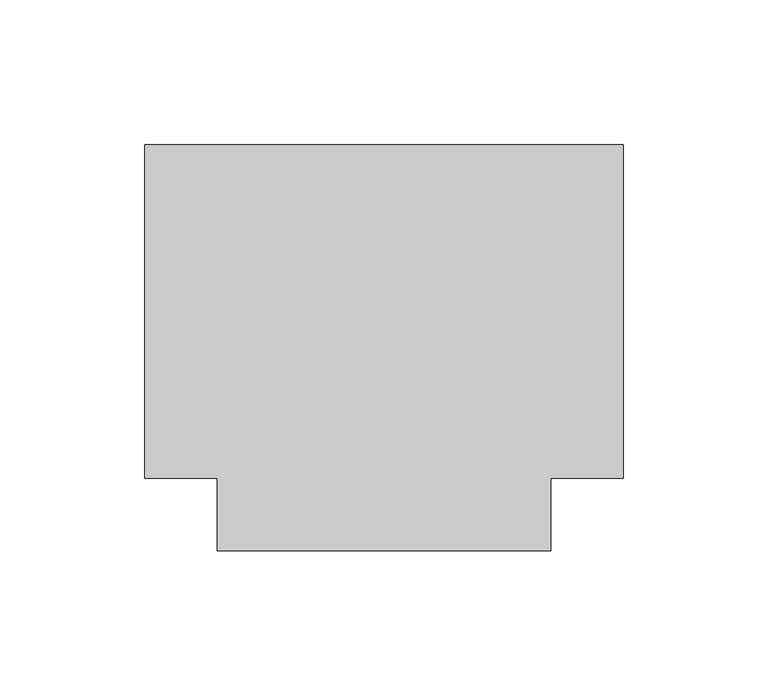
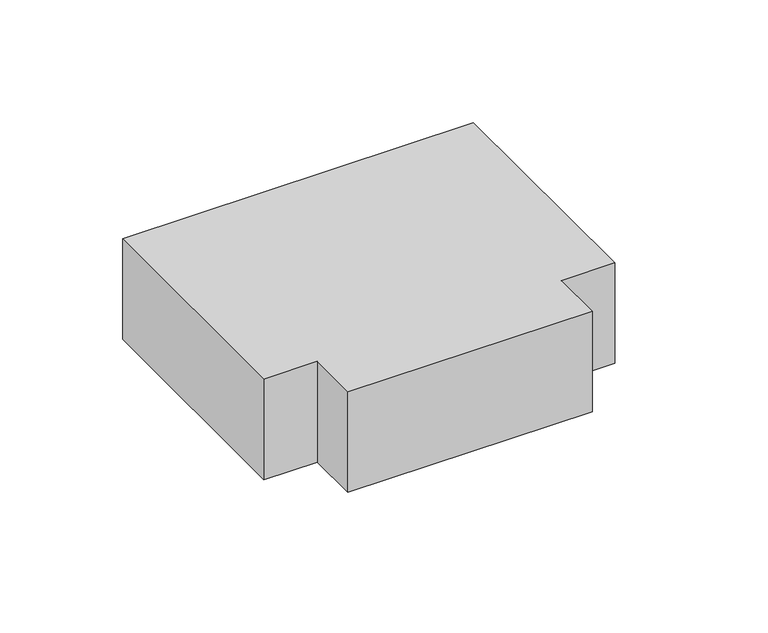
"""IFC4 building model written with IfcOpenShell, lengths in millimetres: duct fitting geometry, КНС_Тройник_DKC : Тройник (Т-образный отвод)."""

from ifc_helpers import new_model, si_unit, frame, origin, place, context, project, spatial, polyline, outline, extrude, source, transform, mapped, element, save


def duct_fitting_d93176e7(model_context):
    return source(origin(), model_context, "Body", "SweptSolid", [
        extrude(outline(polyline([(-82.5, -57.5), (-82.5, 57.5), (82.5, 57.5), (82.5, -57.5), (57.5, -57.5), (57.5, -82.5), (-57.5, -82.5), (-57.5, -57.5), (-82.5, -57.5)])), frame((0.0, 0.0, -25.0), z_axis=(0.0, 0.0, 1.0), x_axis=(1.0, 0.0, 0.0)), (0.0, 0.0, 1.0), 50.0),
    ])


if __name__ == "__main__":
    model = new_model("IFC4")
    model_context = context("Model", 3, world=origin())
    ifc_project = project(units=[si_unit("LENGTHUNIT", "METRE", prefix="MILLI")], contexts=[model_context])
    site = spatial("IfcSite", under=ifc_project)
    building = spatial("IfcBuilding", under=site)
    placement = place(None, origin())
    duct_fitting_shape = duct_fitting_d93176e7(model_context)
    element("IfcDuctFitting", 1, ObjectType="КНС_Тройник_DKC : Тройник (Т-образный отвод)", at=placement, inside=building, context=model_context, shape_type="MappedRepresentation", body=[
        mapped(duct_fitting_shape, transform((0.0, 0.0, 0.0), x_axis=(1.0, 0.0, 0.0), y_axis=(0.0, 1.0, 0.0), z_axis=(0.0, 0.0, 1.0))),
    ])
    save(model, "model.ifc")
